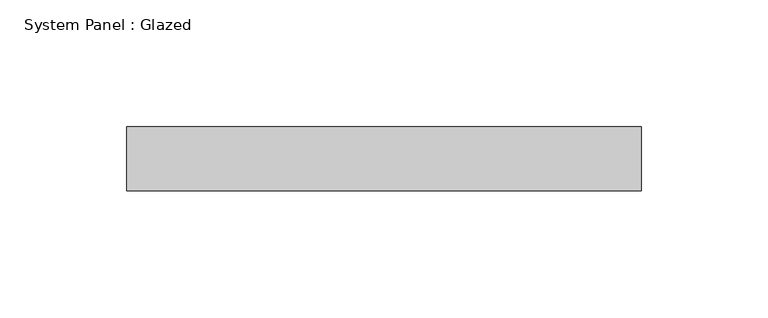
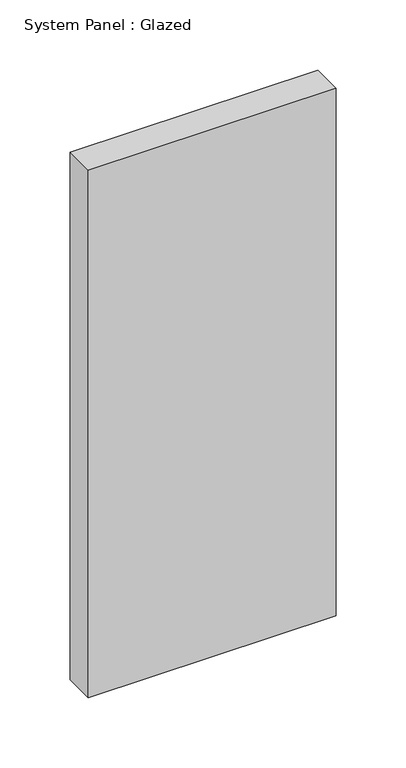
"""IFC4 building model written with IfcOpenShell, lengths in millimetres: plate geometry, System Panel : Glazed."""

from ifc_helpers import new_model, si_unit, origin, origin_with_axes, place, context, project, spatial, polyline, outline, extrude, source, transform, mapped, element, save


def system_panel_glazed_3772fe24(model_context):
    return source(origin(), model_context, "Body", "SweptSolid", [
        extrude(outline(polyline([(101.5999998, 19.05), (-101.5999998, 19.05), (-101.5999998, 44.45), (101.5999998, 44.45), (101.5999998, 19.05)])), origin_with_axes(), (0.0, 0.0, 1.0), 457.2),
    ])


if __name__ == "__main__":
    model = new_model("IFC4")
    model_context = context("Model", 3, world=origin())
    ifc_project = project(units=[si_unit("LENGTHUNIT", "METRE", prefix="MILLI")], contexts=[model_context])
    site = spatial("IfcSite", under=ifc_project)
    building = spatial("IfcBuilding", under=site)
    placement = place(None, origin())
    system_panel_glazed_shape = system_panel_glazed_3772fe24(model_context)
    element("IfcPlate", 1, ObjectType="System Panel : Glazed", at=placement, inside=building, context=model_context, shape_type="MappedRepresentation", body=[
        mapped(system_panel_glazed_shape, transform((0.0, 0.0, 0.0), x_axis=(1.0, 0.0, 0.0), y_axis=(0.0, 1.0, 0.0), z_axis=(0.0, 0.0, 1.0))),
    ])
    save(model, "model.ifc")
